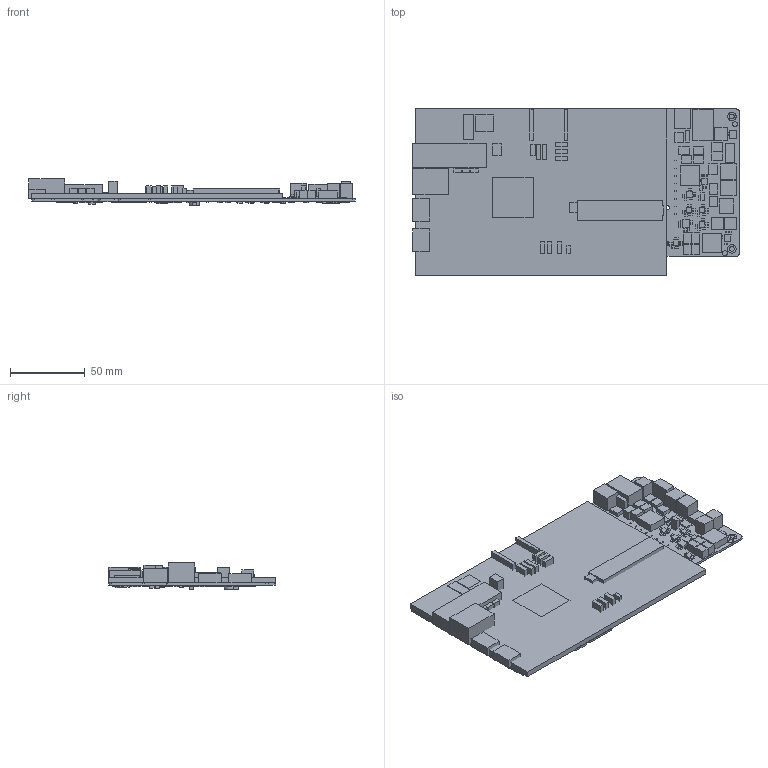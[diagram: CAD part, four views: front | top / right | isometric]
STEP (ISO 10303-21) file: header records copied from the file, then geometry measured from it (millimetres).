
FILE_DESCRIPTION(/* description */ ('PCB Design'),/* implementation_level */ '2;1');
FILE_NAME(/* name */ 'AUB-15P-DK-PCB-STEP,1-01-01-08232024',/* time_stamp */ '2024-08-23T15:10:48-07:00',/* author */ ('027564'),/* organization */ (''),/* preprocessor_version */ 'ST-DEVELOPER v16',/* originating_system */ 'allegro_17.4S037',/* authorisation */ '');
FILE_SCHEMA (('AP242_MANAGED_MODEL_BASED_3D_ENGINEERING_MIM_LF { 1 0 10303 442 1 1 4 }'));
Length unit declared in the file: millimetre
Products named in the file (82): AUBOARD-15P-1-PCB_20240823; BOARD_OUTLINE; COMPONENTS; TSSOP65P300X300X110-8N; SOCKET-ARRAY50P-ASP134486-01; BATTERY-HOLDER-D680-TS621E; VFQFPN50P600X600X90-41N; LED0201; RJ45_LED10P-MAG_L829_1X1T; DCJ1000X1300X1000-2N-082BH; VQFN50P500X500X90-33N; R0805; UPOL55P330X330X147-18N; MINIFIT-JRHEADER420P-2X3N-V; PCIE_X4-FINGER2X32P-1_0FULLSIZE; HEADER1X8P-2_54-SSW01FS; SFP_CAGE-2007194; TQFN50P350X350X75-14N-3P; CAPAE500X580N; CAPAE1000X1020N; CAPAE800X1020N; R2512; STQFN40P1600X3000X55-18N; SLIDESW470P-3N-SPDT; WLL-2-2; STQFN40P200X300X55-20N-A; TDSON127P500X600X120-8N; TSSOP65P300X440X120-8N; SOT89-5; LED72_5P160X160X50-6N; SFPCONN80P-20N-V; INDPW1270X1270X520N; MHC350D250; MHC550D300; MHC630D320; BGA676C100P26X26_2700X2700X352; OSC320X250X90-6N; OSC200X160X50-4N; HDMI50P-19N-MOLEX; HEADER200P-2X7N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
Assembly tree (1210 placements, depth 3):
  AUBOARD-15P-1-PCB_20240823
    BOARD_OUTLINE
    COMPONENTS
      TSSOP65P300X300X110-8N
      SOCKET-ARRAY50P-ASP134486-01
      BATTERY-HOLDER-D680-TS621E
      VFQFPN50P600X600X90-41N  x2
      LED0201  x26
      RJ45_LED10P-MAG_L829_1X1T
      DCJ1000X1300X1000-2N-082BH
      VQFN50P500X500X90-33N
      R0805
      UPOL55P330X330X147-18N  x8
      MINIFIT-JRHEADER420P-2X3N-V
      PCIE_X4-FINGER2X32P-1_0FULLSIZE
      HEADER1X8P-2_54-SSW01FS  x2
      SFP_CAGE-2007194
      TQFN50P350X350X75-14N-3P  x2
      CAPAE500X580N  x8
      CAPAE1000X1020N  x2
      CAPAE800X1020N  x3
      R2512  x3
      STQFN40P1600X3000X55-18N
      SLIDESW470P-3N-SPDT
      WLL-2-2  x18
      STQFN40P200X300X55-20N-A
      TDSON127P500X600X120-8N  x2
      TSSOP65P300X440X120-8N
      SOT89-5  x2
      LED72_5P160X160X50-6N  x2
      SFPCONN80P-20N-V
      INDPW1270X1270X520N  x2
      MHC350D250  x2
      MHC550D300  x4
      MHC630D320  x2
      BGA676C100P26X26_2700X2700X352
      OSC320X250X90-6N
      OSC200X160X50-4N
      HDMI50P-19N-MOLEX  x2
      HEADER200P-2X7N
      DIALSW254P-2X4N-219
      MICROUSB65P-5N-MOLEX47589
      WAFER3P-2_54-MOLEX
      FMC-SINGLE-EDGE
      R0603  x9
      INDPW1000X1000X400N
      L1210  x2
      CKS4B20X12X
      UQFN40P200X400X55-24N
      C1210
      L0805
      PH1X2P-2_54  x5
      PH1X4P-2_54  x2
      INDPW480X590X480-4N
      DFN50P300X300X100-11N
      TSSOP65P500X440X110-16N
      TSSOP65P650X440X120-20N
      VQFN50P700X700X100-49N  x2
      QFN50P400X400X90-21N
      FD100  x6
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Bounding box: 218.02 x 111.6 x 17.56 mm (x, y, z)
Surface area: 123594.4 mm2 (no closed solid volume)
Topology: 0 solids, 1210 shells, 7505 faces, 16610 edges, 10170 vertices
Faces by surface type: plane 7086, cylinder 419
Entity records: 37080 total; most frequent: DIRECTION 4406, ORIENTED_EDGE 4050, CARTESIAN_POINT 3950, AXIS2_PLACEMENT_3D 3883, EDGE_CURVE 2251, VERTEX_POINT 1802, VECTOR 1625, LINE 1625
